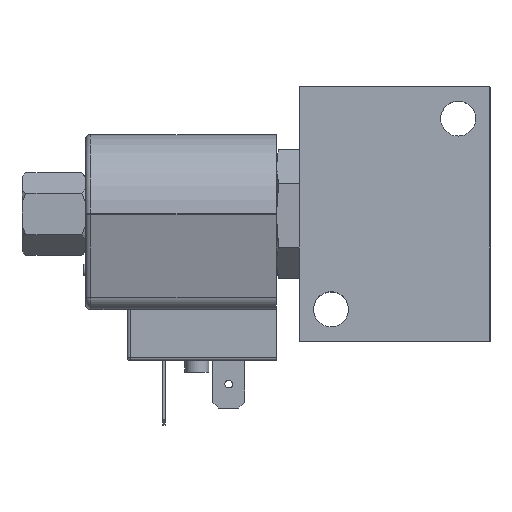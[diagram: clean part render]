
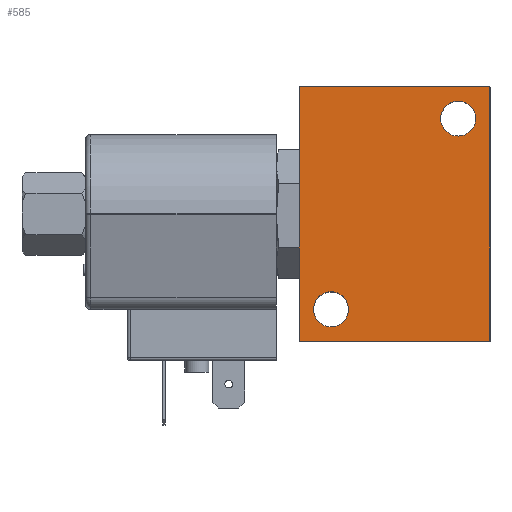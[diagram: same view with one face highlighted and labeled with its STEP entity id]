
A CAD part, top view. The second image highlights one B-rep face of the part: STEP entity #585.
In plain terms, the highlighted planar face has unit normal (0, 0, 1) as drawn and (0, -1, 0) by its records, which use the part's own axes.
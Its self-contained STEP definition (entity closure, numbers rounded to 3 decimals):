
#585 = ADVANCED_FACE( '', ( #1287, #1288, #1289 ), #1290, .T. );
#1287 = FACE_BOUND( '', #2303, .T. );
#1288 = FACE_BOUND( '', #2304, .T. );
#1289 = FACE_OUTER_BOUND( '', #2305, .T. );
#1290 = PLANE( '', #2306 );
#2303 = EDGE_LOOP( '', ( #3283 ) );
#2304 = EDGE_LOOP( '', ( #3284 ) );
#2305 = EDGE_LOOP( '', ( #3285, #3286, #3287, #3288 ) );
#2306 = AXIS2_PLACEMENT_3D( '', #3289, #3290, #3291 );
#3283 = ORIENTED_EDGE( '', *, *, #5735, .F. );
#3284 = ORIENTED_EDGE( '', *, *, #5736, .F. );
#3285 = ORIENTED_EDGE( '', *, *, #5737, .F. );
#3286 = ORIENTED_EDGE( '', *, *, #5738, .F. );
#3287 = ORIENTED_EDGE( '', *, *, #5739, .T. );
#3288 = ORIENTED_EDGE( '', *, *, #5740, .T. );
#3289 = CARTESIAN_POINT( '', ( 25.4, -15.875, 38.1 ) );
#3290 = DIRECTION( '', ( 0., -1., 0. ) );
#3291 = DIRECTION( '', ( 0., 0., -1. ) );
#5735 = EDGE_CURVE( '', #6930, #6930, #6931, .T. );
#5736 = EDGE_CURVE( '', #6932, #6932, #6933, .T. );
#5737 = EDGE_CURVE( '', #6934, #6935, #6936, .T. );
#5738 = EDGE_CURVE( '', #6937, #6934, #6938, .T. );
#5739 = EDGE_CURVE( '', #6937, #6939, #6940, .T. );
#5740 = EDGE_CURVE( '', #6939, #6935, #6941, .T. );
#6930 = VERTEX_POINT( '', #8906 );
#6931 = CIRCLE( '', #8907, 3.5 );
#6932 = VERTEX_POINT( '', #8908 );
#6933 = CIRCLE( '', #8909, 3.5 );
#6934 = VERTEX_POINT( '', #8910 );
#6935 = VERTEX_POINT( '', #8911 );
#6936 = LINE( '', #8912, #8913 );
#6937 = VERTEX_POINT( '', #8914 );
#6938 = LINE( '', #8915, #8916 );
#6939 = VERTEX_POINT( '', #8917 );
#6940 = LINE( '', #8918, #8919 );
#6941 = LINE( '', #8920, #8921 );
#8906 = CARTESIAN_POINT( '', ( 22.55, -15.875, 6.35 ) );
#8907 = AXIS2_PLACEMENT_3D( '', #15050, #15051, #15052 );
#8908 = CARTESIAN_POINT( '', ( -15.55, -15.875, 31.75 ) );
#8909 = AXIS2_PLACEMENT_3D( '', #15053, #15054, #15055 );
#8910 = CARTESIAN_POINT( '', ( 25.4, -15.875, 0. ) );
#8911 = CARTESIAN_POINT( '', ( -25.4, -15.875, 0. ) );
#8912 = CARTESIAN_POINT( '', ( 25.4, -15.875, 0. ) );
#8913 = VECTOR( '', #15056, 1000. );
#8914 = CARTESIAN_POINT( '', ( 25.4, -15.875, 38.1 ) );
#8915 = CARTESIAN_POINT( '', ( 25.4, -15.875, 38.1 ) );
#8916 = VECTOR( '', #15057, 1000. );
#8917 = CARTESIAN_POINT( '', ( -25.4, -15.875, 38.1 ) );
#8918 = CARTESIAN_POINT( '', ( 25.4, -15.875, 38.1 ) );
#8919 = VECTOR( '', #15058, 1000. );
#8920 = CARTESIAN_POINT( '', ( -25.4, -15.875, 38.1 ) );
#8921 = VECTOR( '', #15059, 1000. );
#15050 = CARTESIAN_POINT( '', ( 19.05, -15.875, 6.35 ) );
#15051 = DIRECTION( '', ( 0., -1., 0. ) );
#15052 = DIRECTION( '', ( 1., 0., 0. ) );
#15053 = CARTESIAN_POINT( '', ( -19.05, -15.875, 31.75 ) );
#15054 = DIRECTION( '', ( 0., -1., 0. ) );
#15055 = DIRECTION( '', ( 1., 0., 0. ) );
#15056 = DIRECTION( '', ( -1., 0., 0. ) );
#15057 = DIRECTION( '', ( 0., 0., -1. ) );
#15058 = DIRECTION( '', ( -1., 0., 0. ) );
#15059 = DIRECTION( '', ( 0., 0., -1. ) );
